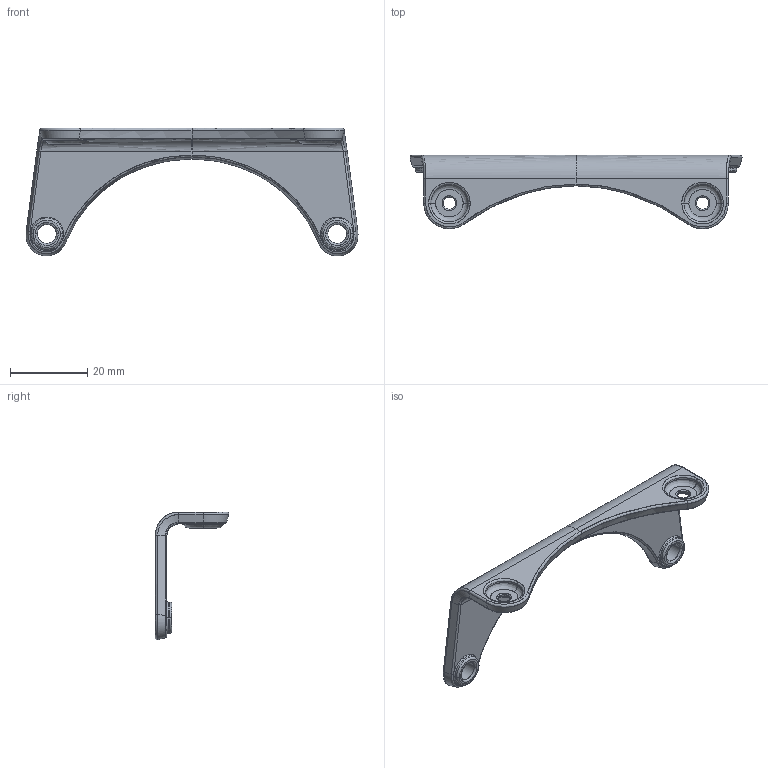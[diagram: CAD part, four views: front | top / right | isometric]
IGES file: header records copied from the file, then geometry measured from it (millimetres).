
Start section: Speaker 2 inch..SLDPRT - PrototypeComponentType Speaker 2 inch..SLDPRT - PrototypeComponentType Speaker 2 inch..SLDPRT - PrototypeComponentType Speaker 2 inch..SLDPRT - PrototypeComponentType 10 rocker-switch-KCD1..SLDPRT - PrototypeComponentType 10 rocker-switch-KCD1..SLDPRT - PrototypeComponentType 10 rocker-switch-KCD1..SLDPRT - PrototypeComponentType 10 rocker-switch-KCD1..SLDPRT - PrototypeCo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
Global section: file name: C:\Users\Victor\Desktop\SoporteCamara.igs; native system: Rhinoceros ( Feb 27 2019 ); preprocessor: Trout Lake IGES 012 Feb 27 2019; date: 241028.191455; units: millimetre
Bounding box: 85.74 x 18.98 x 32.99 mm (x, y, z)
Surface area: 4985.1 mm2 (no closed solid volume)
Topology: 0 solids, 0 shells, 136 faces, 954 edges, 954 vertices
Faces by surface type: bspline 136
